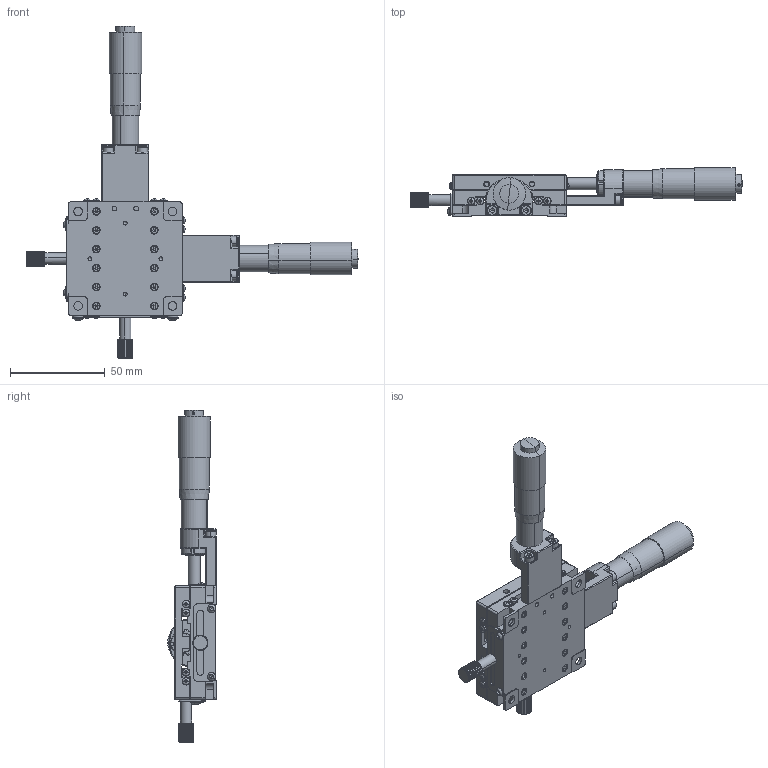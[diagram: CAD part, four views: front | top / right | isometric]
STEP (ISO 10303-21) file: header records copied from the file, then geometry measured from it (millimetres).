
FILE_DESCRIPTION (( 'STEP AP203' ), '1' );
FILE_NAME ('M-TCSJ60XY-10-BL.STEP', '2019-11-13T06:04:59', ( '¦K¬P' ), ( '' ), 'SwSTEP 2.0', 'SolidWorks 2019', '' );
FILE_SCHEMA (( 'CONFIG_CONTROL_DESIGN' ));
Products named in the file (1): M-TCSJ60XY-10-BL
Bounding box: 175.47 x 25.78 x 175.47 mm (x, y, z)
Volume: 95558.4 mm3; surface area: 65888.7 mm2
Topology: 16 solids, 66 shells, 2596 faces, 6138 edges, 3732 vertices
Faces by surface type: plane 1252, cylinder 896, cone 280, torus 108, sphere 60
Entity records: 74147 total; most frequent: DIRECTION 13626, CARTESIAN_POINT 13215, ORIENTED_EDGE 11964, EDGE_CURVE 5982, AXIS2_PLACEMENT_3D 5283, VERTEX_POINT 3732, VECTOR 3060, LINE 3060
